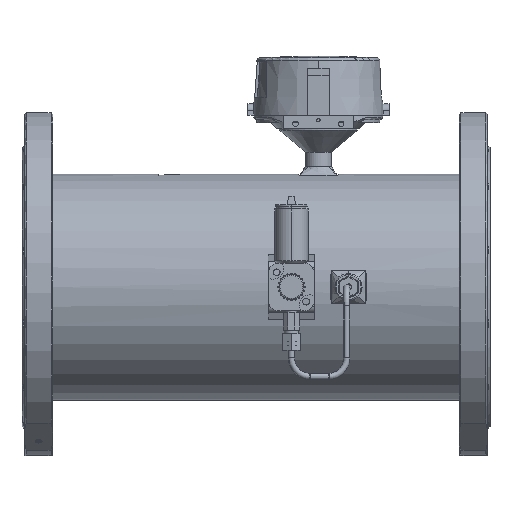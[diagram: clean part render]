
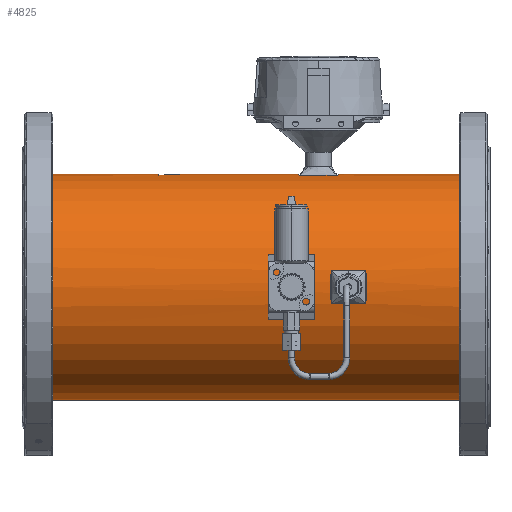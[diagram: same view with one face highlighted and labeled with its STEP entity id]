
A CAD part, top view. The second image highlights one B-rep face of the part: STEP entity #4825.
In plain terms, the highlighted cylindrical face has radius 108.7 mm (diameter 217.4 mm), a partial arc.
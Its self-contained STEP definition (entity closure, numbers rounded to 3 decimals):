
#3682=CARTESIAN_POINT('',(290.5,16.107,107.5));
#3683=CARTESIAN_POINT('',(288.891,5.369,109.109));
#3684=CARTESIAN_POINT('',(288.891,-5.369,109.109));
#3685=CARTESIAN_POINT('',(290.5,-16.107,107.5));
#3690=DIRECTION('',(1.,0.,0.));
#3691=VECTOR('',#3690,33.);
#3692=CARTESIAN_POINT('',(290.5,-16.107,107.5));
#3693=LINE('',#3692,#3691);
#3697=CARTESIAN_POINT('',(323.5,-16.107,107.5));
#3698=CARTESIAN_POINT('',(325.109,-5.369,109.109));
#3699=CARTESIAN_POINT('',(325.109,5.369,109.109));
#3700=CARTESIAN_POINT('',(323.5,16.107,107.5));
#3705=DIRECTION('',(1.,0.,0.));
#3706=VECTOR('',#3705,33.);
#3707=CARTESIAN_POINT('',(290.5,16.107,107.5));
#3708=LINE('',#3707,#3706);
#3712=CARTESIAN_POINT('',(258.8,108.7,0.));
#3713=CARTESIAN_POINT('',(258.8,108.7,5.428));
#3714=CARTESIAN_POINT('',(259.204,108.296,10.797));
#3715=CARTESIAN_POINT('',(260.,107.5,16.107));
#3720=DIRECTION('',(1.,0.,0.));
#3721=VECTOR('',#3720,36.);
#3722=CARTESIAN_POINT('',(260.,107.5,16.107));
#3723=LINE('',#3722,#3721);
#3727=CARTESIAN_POINT('',(297.2,108.7,0.));
#3728=CARTESIAN_POINT('',(297.2,108.7,5.428));
#3729=CARTESIAN_POINT('',(296.796,108.296,10.797));
#3730=CARTESIAN_POINT('',(296.,107.5,16.107));
#3735=CARTESIAN_POINT('',(414.,0.,0.));
#3736=DIRECTION('',(1.,0.,0.));
#3737=DIRECTION('',(0.,1.,0.));
#3738=AXIS2_PLACEMENT_3D('',#3735,#3736,#3737);
#3743=CARTESIAN_POINT('',(21.5,0.,0.));
#3744=DIRECTION('',(1.,0.,0.));
#3745=DIRECTION('',(0.,1.,0.));
#3746=AXIS2_PLACEMENT_3D('',#3743,#3744,#3745);
#3751=CARTESIAN_POINT('',(93.86,0.,0.));
#3752=DIRECTION('',(1.,0.,0.));
#3753=DIRECTION('',(0.,1.,0.));
#3754=AXIS2_PLACEMENT_3D('',#3751,#3752,#3753);
#3759=DIRECTION('',(1.,0.,0.));
#3760=VECTOR('',#3759,30.);
#3761=CARTESIAN_POINT('',(93.86,108.585,5.));
#3762=LINE('',#3761,#3760);
#3766=CARTESIAN_POINT('',(123.86,0.,0.));
#3767=DIRECTION('',(1.,0.,0.));
#3768=DIRECTION('',(0.,0.999,0.046));
#3769=AXIS2_PLACEMENT_3D('',#3766,#3767,#3768);
#3774=CARTESIAN_POINT('',(149.087,108.7,0.));
#3775=CARTESIAN_POINT('',(140.668,108.7,4.861));
#3776=CARTESIAN_POINT('',(132.259,108.375,9.716));
#3777=CARTESIAN_POINT('',(123.86,107.72,14.565));
#3968=DIRECTION('',(-1.,0.,0.));
#3969=VECTOR('',#3968,109.713);
#3970=CARTESIAN_POINT('',(258.8,108.7,0.));
#3971=LINE('',#3970,#3969);
#4006=DIRECTION('',(-1.,0.,0.));
#4007=VECTOR('',#4006,72.36);
#4008=CARTESIAN_POINT('',(93.86,108.7,0.));
#4009=LINE('',#4008,#4007);
#4021=DIRECTION('',(-1.,0.,0.));
#4022=VECTOR('',#4021,392.5);
#4023=CARTESIAN_POINT('',(414.,-108.7,0.));
#4024=LINE('',#4023,#4022);
#4036=DIRECTION('',(-1.,0.,0.));
#4037=VECTOR('',#4036,116.8);
#4038=CARTESIAN_POINT('',(414.,108.7,0.));
#4039=LINE('',#4038,#4037);
#4570=CARTESIAN_POINT('',(414.,108.7,0.));
#4571=CARTESIAN_POINT('',(414.,-108.7,0.));
#4572=VERTEX_POINT('',#4570);
#4573=VERTEX_POINT('',#4571);
#4574=VERTEX_POINT('',#3712);
#4575=VERTEX_POINT('',#3715);
#4576=CARTESIAN_POINT('',(296.,107.5,16.107));
#4577=VERTEX_POINT('',#4576);
#4578=VERTEX_POINT('',#3727);
#4602=VERTEX_POINT('',#3682);
#4603=VERTEX_POINT('',#3685);
#4604=VERTEX_POINT('',#3697);
#4605=VERTEX_POINT('',#3700);
#4610=CARTESIAN_POINT('',(21.5,108.7,0.));
#4611=CARTESIAN_POINT('',(21.5,-108.7,0.));
#4612=VERTEX_POINT('',#4610);
#4613=VERTEX_POINT('',#4611);
#4664=CARTESIAN_POINT('',(149.087,108.7,0.));
#4665=VERTEX_POINT('',#4664);
#4666=CARTESIAN_POINT('',(93.86,108.7,0.));
#4667=VERTEX_POINT('',#4666);
#4682=CARTESIAN_POINT('',(93.86,108.585,5.));
#4683=VERTEX_POINT('',#4682);
#4684=CARTESIAN_POINT('',(123.86,108.585,5.));
#4685=VERTEX_POINT('',#4684);
#4686=CARTESIAN_POINT('',(123.86,107.72,14.565));
#4687=VERTEX_POINT('',#4686);
#4783=CARTESIAN_POINT('',(-21.85,0.,0.));
#4784=DIRECTION('',(1.,0.,0.));
#4785=DIRECTION('',(0.,-1.,0.));
#4786=AXIS2_PLACEMENT_3D('',#4783,#4784,#4785);
#4787=CYLINDRICAL_SURFACE('',#4786,108.7);
#4789=ORIENTED_EDGE('',*,*,#4788,.F.);
#4791=ORIENTED_EDGE('',*,*,#4790,.T.);
#4793=ORIENTED_EDGE('',*,*,#4792,.T.);
#4795=ORIENTED_EDGE('',*,*,#4794,.F.);
#4797=ORIENTED_EDGE('',*,*,#4796,.F.);
#4798=ORIENTED_EDGE('',*,*,#4765,.T.);
#4800=ORIENTED_EDGE('',*,*,#4799,.T.);
#4802=ORIENTED_EDGE('',*,*,#4801,.F.);
#4804=ORIENTED_EDGE('',*,*,#4803,.F.);
#4806=ORIENTED_EDGE('',*,*,#4805,.T.);
#4808=ORIENTED_EDGE('',*,*,#4807,.T.);
#4810=ORIENTED_EDGE('',*,*,#4809,.T.);
#4812=ORIENTED_EDGE('',*,*,#4811,.F.);
#4813=EDGE_LOOP('',(#4789,#4791,#4793,#4795,#4797,#4798,#4800,#4802,#4804,#4806,
#4808,#4810,#4812));
#4814=FACE_OUTER_BOUND('',#4813,.F.);
#4816=ORIENTED_EDGE('',*,*,#4815,.T.);
#4818=ORIENTED_EDGE('',*,*,#4817,.T.);
#4820=ORIENTED_EDGE('',*,*,#4819,.T.);
#4822=ORIENTED_EDGE('',*,*,#4821,.F.);
#4823=EDGE_LOOP('',(#4816,#4818,#4820,#4822));
#4824=FACE_BOUND('',#4823,.F.);
#3686=B_SPLINE_CURVE_WITH_KNOTS('',3,(#3682,#3683,#3684,#3685),.UNSPECIFIED.,
.F.,.F.,(4,4),(0.,1.),.UNSPECIFIED.);
#3701=B_SPLINE_CURVE_WITH_KNOTS('',3,(#3697,#3698,#3699,#3700),.UNSPECIFIED.,
.F.,.F.,(4,4),(0.,1.),.UNSPECIFIED.);
#3716=B_SPLINE_CURVE_WITH_KNOTS('',3,(#3712,#3713,#3714,#3715),.UNSPECIFIED.,
.F.,.F.,(4,4),(0.,1.),.UNSPECIFIED.);
#3731=B_SPLINE_CURVE_WITH_KNOTS('',3,(#3727,#3728,#3729,#3730),.UNSPECIFIED.,
.F.,.F.,(4,4),(0.,1.),.UNSPECIFIED.);
#3739=CIRCLE('',#3738,108.7);
#3747=CIRCLE('',#3746,108.7);
#3755=CIRCLE('',#3754,108.7);
#3770=CIRCLE('',#3769,108.7);
#3778=B_SPLINE_CURVE_WITH_KNOTS('',3,(#3774,#3775,#3776,#3777),.UNSPECIFIED.,
.F.,.F.,(4,4),(0.,1.),.UNSPECIFIED.);
#4765=EDGE_CURVE('',#4572,#4573,#3739,.T.);
#4788=EDGE_CURVE('',#4574,#4665,#3971,.T.);
#4790=EDGE_CURVE('',#4574,#4575,#3716,.T.);
#4792=EDGE_CURVE('',#4575,#4577,#3723,.T.);
#4794=EDGE_CURVE('',#4578,#4577,#3731,.T.);
#4796=EDGE_CURVE('',#4572,#4578,#4039,.T.);
#4799=EDGE_CURVE('',#4573,#4613,#4024,.T.);
#4801=EDGE_CURVE('',#4612,#4613,#3747,.T.);
#4803=EDGE_CURVE('',#4667,#4612,#4009,.T.);
#4805=EDGE_CURVE('',#4667,#4683,#3755,.T.);
#4807=EDGE_CURVE('',#4683,#4685,#3762,.T.);
#4809=EDGE_CURVE('',#4685,#4687,#3770,.T.);
#4811=EDGE_CURVE('',#4665,#4687,#3778,.T.);
#4815=EDGE_CURVE('',#4602,#4603,#3686,.T.);
#4817=EDGE_CURVE('',#4603,#4604,#3693,.T.);
#4819=EDGE_CURVE('',#4604,#4605,#3701,.T.);
#4821=EDGE_CURVE('',#4602,#4605,#3708,.T.);
#4825=ADVANCED_FACE('',(#4814,#4824),#4787,.T.);
